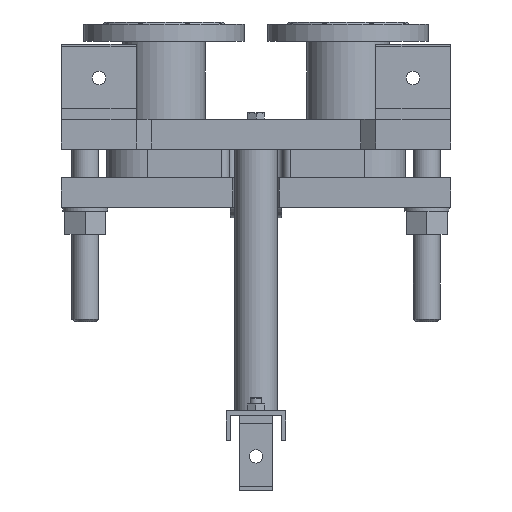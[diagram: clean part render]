
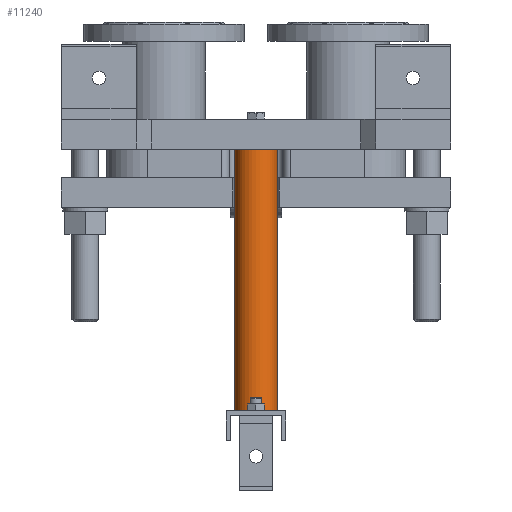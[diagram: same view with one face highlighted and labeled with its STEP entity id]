
A CAD part, front view. The second image highlights one B-rep face of the part: STEP entity #11240.
In plain terms, the highlighted cylindrical face has radius 28.5 mm (diameter 57 mm), a full revolution.
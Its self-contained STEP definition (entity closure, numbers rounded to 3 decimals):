
#781=LINE('',#22043,#1754);
#1754=VECTOR('',#14569,28.5);
#2333=CYLINDRICAL_SURFACE('',#12263,28.5);
#2995=FACE_OUTER_BOUND('',#3777,.T.);
#3777=EDGE_LOOP('',(#9013,#9014,#9015,#9016));
#4462=CIRCLE('',#12264,28.5);
#4463=CIRCLE('',#12265,28.5);
#5286=VERTEX_POINT('',#22040);
#5287=VERTEX_POINT('',#22042);
#6596=EDGE_CURVE('',#5286,#5286,#4462,.T.);
#6597=EDGE_CURVE('',#5286,#5287,#781,.T.);
#6598=EDGE_CURVE('',#5287,#5287,#4463,.T.);
#9013=ORIENTED_EDGE('',*,*,#6596,.F.);
#9014=ORIENTED_EDGE('',*,*,#6597,.T.);
#9015=ORIENTED_EDGE('',*,*,#6598,.T.);
#9016=ORIENTED_EDGE('',*,*,#6597,.F.);
#11240=ADVANCED_FACE('',(#2995),#2333,.T.);
#12263=AXIS2_PLACEMENT_3D('',#22039,#14565,#14566);
#12264=AXIS2_PLACEMENT_3D('',#22041,#14567,#14568);
#12265=AXIS2_PLACEMENT_3D('',#22044,#14570,#14571);
#14565=DIRECTION('center_axis',(0.,0.,
-1.));
#14566=DIRECTION('ref_axis',(-1.,0.,0.));
#14567=DIRECTION('center_axis',(0.,0.,
-1.));
#14568=DIRECTION('ref_axis',(-1.,0.,0.));
#14569=DIRECTION('',(0.,0.,1.));
#14570=DIRECTION('center_axis',(0.,0.,
-1.));
#14571=DIRECTION('ref_axis',(-1.,0.,0.));
#22039=CARTESIAN_POINT('Origin',(0.,215.,0.));
#22040=CARTESIAN_POINT('',(28.5,215.,-349.5));
#22041=CARTESIAN_POINT('Origin',(0.,215.,-349.5));
#22042=CARTESIAN_POINT('',(28.5,215.,0.));
#22043=CARTESIAN_POINT('',(28.5,215.,0.));
#22044=CARTESIAN_POINT('Origin',(0.,215.,0.));
